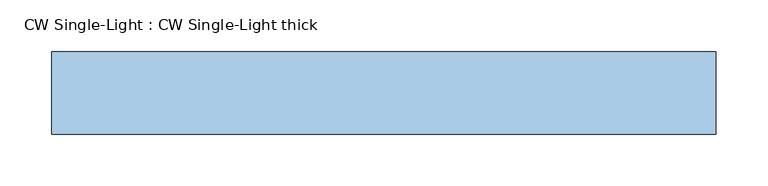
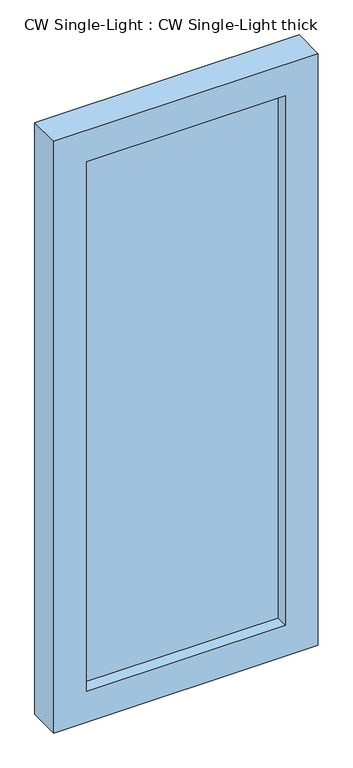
"""IFC4 building model written with IfcOpenShell, lengths in millimetres: window geometry, CW Single-Light : CW Single-Light thick."""

from ifc_helpers import new_model, si_unit, frame, origin, place, context, project, spatial, polyline, outline, extrude, source, transform, mapped, element, save


def cw_single_light_cw_single_light_thick_8c0b10de(model_context):
    return source(origin(), model_context, "Body", "SweptSolid", [
        extrude(outline(polyline([(-242.5, -31.0), (242.5, -31.0), (242.5, -49.0), (-242.5, -49.0), (-242.5, -31.0)])), frame((0.0, 0.0, 80.0), z_axis=(0.0, 0.0, 1.0), x_axis=(1.0, 0.0, 0.0)), (0.0, 0.0, 1.0), 1365.0),
        extrude(outline(polyline([(1525.0, -322.5), (0.0, -322.5), (0.0, 322.5), (1525.0, 322.5), (1525.0, -322.5)]), holes=[polyline([(1445.0, -242.5), (1445.0, 242.5), (80.0, 242.5), (80.0, -242.5), (1445.0, -242.5)])]), frame((0.0, -80.0, 0.0), z_axis=(0.0, 1.0, 0.0), x_axis=(0.0, 0.0, 1.0)), (0.0, 0.0, 1.0), 80.0),
    ])


if __name__ == "__main__":
    model = new_model("IFC4")
    model_context = context("Model", 3, world=origin())
    ifc_project = project(units=[si_unit("LENGTHUNIT", "METRE", prefix="MILLI")], contexts=[model_context])
    site = spatial("IfcSite", under=ifc_project)
    building = spatial("IfcBuilding", under=site)
    placement = place(None, origin())
    cw_single_light_cw_single_light_thick_shape = cw_single_light_cw_single_light_thick_8c0b10de(model_context)
    element("IfcWindow", 1, ObjectType="CW Single-Light : CW Single-Light thick", at=placement, inside=building, context=model_context, shape_type="MappedRepresentation", body=[
        mapped(cw_single_light_cw_single_light_thick_shape, transform((0.0, 0.0, 0.0), x_axis=(1.0, 0.0, 0.0), y_axis=(0.0, 1.0, 0.0), z_axis=(0.0, 0.0, 1.0))),
    ])
    save(model, "model.ifc")
